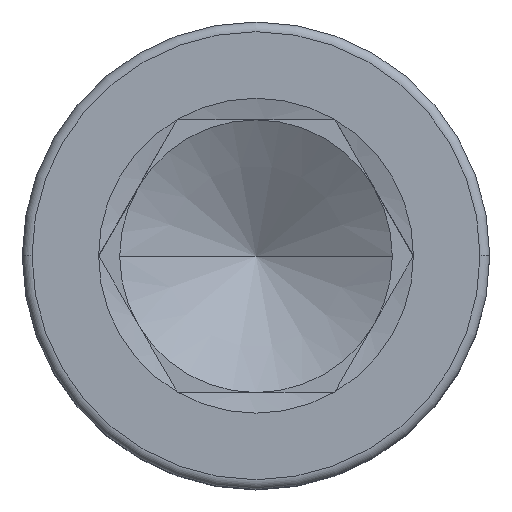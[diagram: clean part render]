
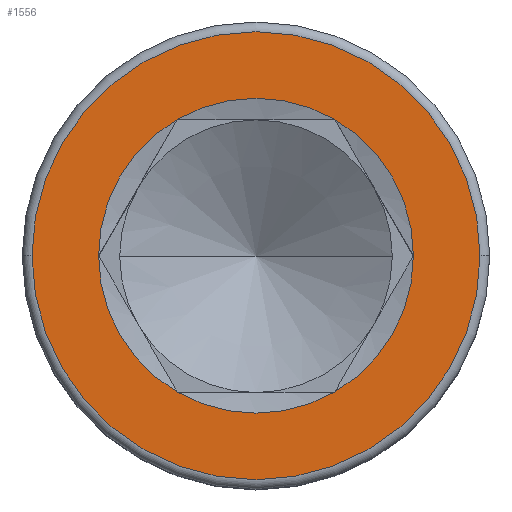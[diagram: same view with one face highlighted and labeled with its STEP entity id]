
A CAD part, top view. The second image highlights one B-rep face of the part: STEP entity #1556.
In plain terms, the highlighted planar face has unit normal (0, 0, 1).
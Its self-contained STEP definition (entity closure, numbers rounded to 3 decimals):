
#26 = CARTESIAN_POINT ( 'NONE',  ( -4.041, -7., 16. ) ) ;
#40 = CARTESIAN_POINT ( 'NONE',  ( 0., 0., 16. ) ) ;
#49 = CARTESIAN_POINT ( 'NONE',  ( 0., 0., 16. ) ) ;
#50 = DIRECTION ( 'NONE',  ( 0., 0., 1. ) ) ;
#64 = VERTEX_POINT ( 'NONE', #345 ) ;
#112 = CARTESIAN_POINT ( 'NONE',  ( 11.5, 0., 16. ) ) ;
#127 = ORIENTED_EDGE ( 'NONE', *, *, #253, .F. ) ;
#219 = CARTESIAN_POINT ( 'NONE',  ( 0., 0., 16. ) ) ;
#253 = EDGE_CURVE ( 'NONE', #307, #1621, #786, .T. ) ;
#307 = VERTEX_POINT ( 'NONE', #1965 ) ;
#321 = CIRCLE ( 'NONE', #352, 8.083 ) ;
#329 = VERTEX_POINT ( 'NONE', #429 ) ;
#337 = DIRECTION ( 'NONE',  ( 0., 0., 1. ) ) ;
#345 = CARTESIAN_POINT ( 'NONE',  ( -8.083, 0., 16. ) ) ;
#352 = AXIS2_PLACEMENT_3D ( 'NONE', #1846, #337, #1268 ) ;
#429 = CARTESIAN_POINT ( 'NONE',  ( 4.041, -7., 16. ) ) ;
#458 = AXIS2_PLACEMENT_3D ( 'NONE', #1487, #1615, #698 ) ;
#484 = CIRCLE ( 'NONE', #1438, 11.5 ) ;
#553 = EDGE_CURVE ( 'NONE', #1479, #64, #1958, .T. ) ;
#556 = CARTESIAN_POINT ( 'NONE',  ( 0., 0., 16. ) ) ;
#568 = ORIENTED_EDGE ( 'NONE', *, *, #1151, .F. ) ;
#602 = EDGE_CURVE ( 'NONE', #1513, #740, #1097, .T. ) ;
#677 = DIRECTION ( 'NONE',  ( 1., 0., 0. ) ) ;
#681 = AXIS2_PLACEMENT_3D ( 'NONE', #219, #1181, #1002 ) ;
#690 = PLANE ( 'NONE',  #681 ) ;
#691 = DIRECTION ( 'NONE',  ( 1., 0., 0. ) ) ;
#698 = DIRECTION ( 'NONE',  ( 1., 0., 0. ) ) ;
#706 = CARTESIAN_POINT ( 'NONE',  ( 4.041, 7., 16. ) ) ;
#717 = CARTESIAN_POINT ( 'NONE',  ( -11.5, 0., 16. ) ) ;
#731 = ORIENTED_EDGE ( 'NONE', *, *, #1591, .F. ) ;
#740 = VERTEX_POINT ( 'NONE', #112 ) ;
#752 = DIRECTION ( 'NONE',  ( 0., 0., 1. ) ) ;
#786 = CIRCLE ( 'NONE', #1455, 8.083 ) ;
#853 = CARTESIAN_POINT ( 'NONE',  ( 0., 0., 16. ) ) ;
#966 = CIRCLE ( 'NONE', #458, 8.083 ) ;
#967 = AXIS2_PLACEMENT_3D ( 'NONE', #40, #1283, #691 ) ;
#970 = CARTESIAN_POINT ( 'NONE',  ( 0., 0., 16. ) ) ;
#1002 = DIRECTION ( 'NONE',  ( 1., 0., 0. ) ) ;
#1009 = EDGE_CURVE ( 'NONE', #740, #1513, #484, .T. ) ;
#1013 = EDGE_CURVE ( 'NONE', #64, #1826, #1379, .T. ) ;
#1041 = ORIENTED_EDGE ( 'NONE', *, *, #602, .T. ) ;
#1066 = AXIS2_PLACEMENT_3D ( 'NONE', #1976, #752, #1230 ) ;
#1097 = CIRCLE ( 'NONE', #967, 11.5 ) ;
#1147 = DIRECTION ( 'NONE',  ( 1., 0., 0. ) ) ;
#1151 = EDGE_CURVE ( 'NONE', #1621, #1479, #1919, .T. ) ;
#1152 = FACE_BOUND ( 'NONE', #1867, .T. ) ;
#1178 = DIRECTION ( 'NONE',  ( 1., 0., 0. ) ) ;
#1181 = DIRECTION ( 'NONE',  ( 0., 0., 1. ) ) ;
#1230 = DIRECTION ( 'NONE',  ( 1., 0., 0. ) ) ;
#1268 = DIRECTION ( 'NONE',  ( 1., 0., 0. ) ) ;
#1283 = DIRECTION ( 'NONE',  ( 0., 0., 1. ) ) ;
#1301 = CARTESIAN_POINT ( 'NONE',  ( -4.041, 7., 16. ) ) ;
#1379 = CIRCLE ( 'NONE', #1859, 8.083 ) ;
#1400 = EDGE_CURVE ( 'NONE', #329, #307, #321, .T. ) ;
#1431 = ORIENTED_EDGE ( 'NONE', *, *, #1013, .F. ) ;
#1433 = DIRECTION ( 'NONE',  ( 0., 0., 1. ) ) ;
#1438 = AXIS2_PLACEMENT_3D ( 'NONE', #970, #1433, #1178 ) ;
#1448 = DIRECTION ( 'NONE',  ( 1., 0., 0. ) ) ;
#1455 = AXIS2_PLACEMENT_3D ( 'NONE', #556, #1735, #1147 ) ;
#1479 = VERTEX_POINT ( 'NONE', #1301 ) ;
#1487 = CARTESIAN_POINT ( 'NONE',  ( 0., 0., 16. ) ) ;
#1501 = ORIENTED_EDGE ( 'NONE', *, *, #1400, .F. ) ;
#1513 = VERTEX_POINT ( 'NONE', #717 ) ;
#1556 = ADVANCED_FACE ( 'NONE', ( #1594, #1152 ), #690, .T. ) ;
#1591 = EDGE_CURVE ( 'NONE', #1826, #329, #966, .T. ) ;
#1594 = FACE_OUTER_BOUND ( 'NONE', #1837, .T. ) ;
#1611 = ORIENTED_EDGE ( 'NONE', *, *, #553, .F. ) ;
#1615 = DIRECTION ( 'NONE',  ( 0., 0., 1. ) ) ;
#1621 = VERTEX_POINT ( 'NONE', #706 ) ;
#1676 = ORIENTED_EDGE ( 'NONE', *, *, #1009, .T. ) ;
#1735 = DIRECTION ( 'NONE',  ( 0., 0., 1. ) ) ;
#1826 = VERTEX_POINT ( 'NONE', #26 ) ;
#1834 = AXIS2_PLACEMENT_3D ( 'NONE', #853, #50, #1448 ) ;
#1837 = EDGE_LOOP ( 'NONE', ( #1676, #1041 ) ) ;
#1846 = CARTESIAN_POINT ( 'NONE',  ( 0., 0., 16. ) ) ;
#1859 = AXIS2_PLACEMENT_3D ( 'NONE', #49, #1934, #677 ) ;
#1867 = EDGE_LOOP ( 'NONE', ( #127, #1501, #731, #1431, #1611, #568 ) ) ;
#1919 = CIRCLE ( 'NONE', #1066, 8.083 ) ;
#1934 = DIRECTION ( 'NONE',  ( 0., 0., 1. ) ) ;
#1958 = CIRCLE ( 'NONE', #1834, 8.083 ) ;
#1965 = CARTESIAN_POINT ( 'NONE',  ( 8.083, 0., 16. ) ) ;
#1976 = CARTESIAN_POINT ( 'NONE',  ( 0., 0., 16. ) ) ;
